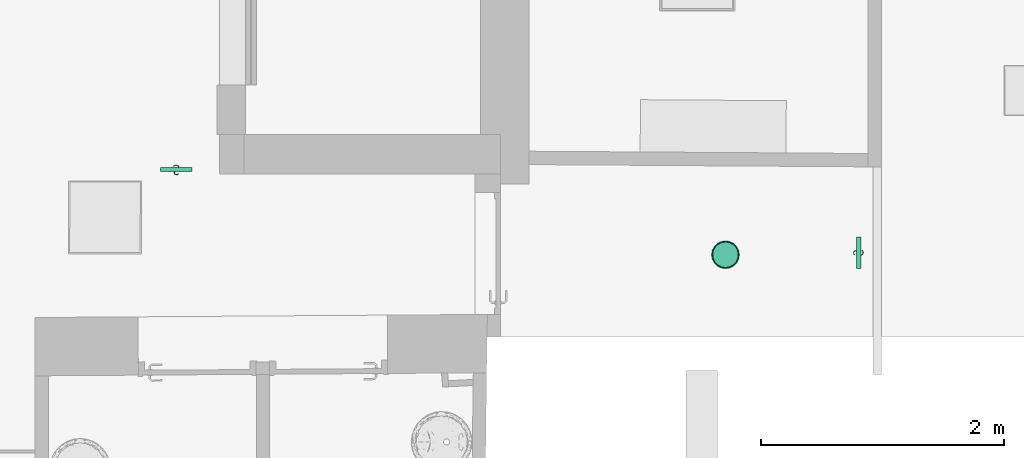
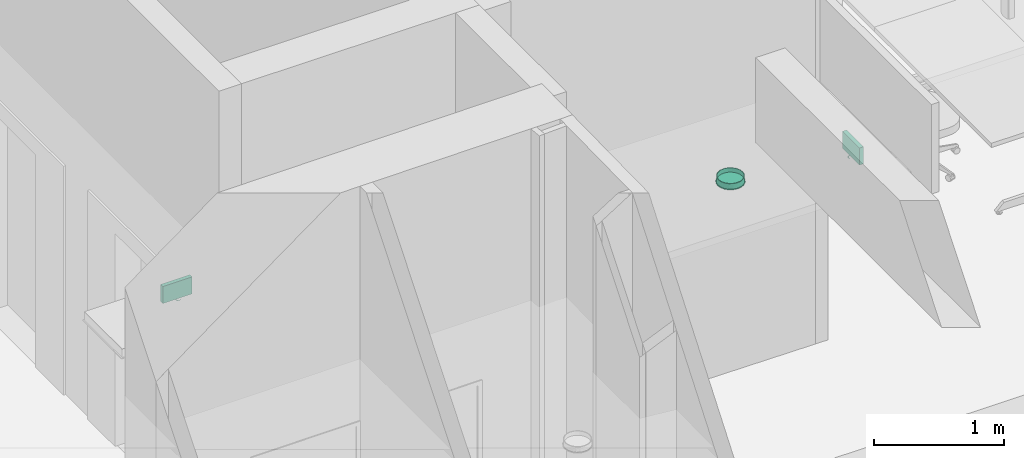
# One storey, part 74 of 128: 3 flow terminals.
"""IFC2X3 building model written with IfcOpenShell, lengths in metres."""

from ifc_helpers import new_model, entity, si_unit, converted_unit, derived_unit, direction, frame, origin, place, context, subcontext, project, spatial, face_set, faceted_brep, surface_model, source, transform, mapped, material, type_object, type_shapes, element, save


model = new_model("IFC2X3")

# Units and contexts
model_context = context("Model", 3, precision=1e-05, world=origin(), true_north=direction((6.123031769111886e-17, 1.0)))
body_context = subcontext(model_context, "Body", "Model", "MODEL_VIEW")
ifc_project = project(units=[si_unit("LENGTHUNIT", "METRE"), si_unit("AREAUNIT", "SQUARE_METRE"), converted_unit("PLANEANGLEUNIT", "DEGREE", entity("IfcPlaneAngleMeasure", 0.017453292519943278), si_unit("PLANEANGLEUNIT", "RADIAN"), dimensions=[0, 0, 0, 0, 0, 0, 0]), derived_unit("THERMALTRANSMITTANCEUNIT", [(si_unit("MASSUNIT", "GRAM", prefix="KILO"), 1), (si_unit("THERMODYNAMICTEMPERATUREUNIT", "KELVIN"), -1), (si_unit("TIMEUNIT", "SECOND"), -3)])], contexts=[model_context])

# Site, building, storey
site_placement = place(None, origin())
site = spatial("IfcSite", under=ifc_project, at=site_placement, Name="Default", CompositionType="ELEMENT")
building_placement = place(site_placement, origin())
building = spatial("IfcBuilding", under=site, at=building_placement, CompositionType="ELEMENT")
storey_placement = place(building_placement, origin())
storey = spatial("IfcBuildingStorey", under=building, at=storey_placement, Name="00_RDC CAF", CompositionType="ELEMENT", Elevation=2.4982504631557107e-13)

# Flow terminals
ifc_material = material(Name="ARC - Eq Elec - Blanc")
light_fixture_type_1 = type_object("IfcLightFixtureType", Name="Eq_Elec_Luminaire_Circulaire_LED_Encastre:Eq_Elec_Luminaire_Circulaire_LED_Encastre_D220x50mm", PredefinedType="NOTDEFINED", material=ifc_material)
shared_shape_1 = source(origin(), body_context, "Body", "Brep", [
    faceted_brep([(0.0, 0.10499999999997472, -0.010000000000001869), (0.02717599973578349, 0.10142221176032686, -0.010000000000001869), (0.05250000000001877, 0.09093266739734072, -0.010000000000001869), (0.07424621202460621, 0.07424621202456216, -0.010000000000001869), (0.09093266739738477, 0.05249999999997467, -0.010000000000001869), (0.10142221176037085, 0.027175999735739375, -0.010000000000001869), (0.10500000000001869, 0.0, -0.010000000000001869), (0.10142221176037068, -0.02717599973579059, -0.010000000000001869), (0.09093266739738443, -0.05250000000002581, -0.010000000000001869), (0.07424621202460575, -0.07424621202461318, -0.010000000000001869), (0.0525000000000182, -0.09093266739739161, -0.010000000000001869), (0.02717599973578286, -0.10142221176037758, -0.010000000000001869), (0.0, -0.10500000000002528, -0.010000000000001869), (-0.027175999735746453, -0.10142221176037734, -0.010000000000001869), (-0.052499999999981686, -0.09093266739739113, -0.010000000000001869), (-0.07424621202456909, -0.0742462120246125, -0.010000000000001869), (-0.09093266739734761, -0.052500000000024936, -0.010000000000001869), (-0.10142221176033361, -0.027175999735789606, -0.010000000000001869), (-0.10499999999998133, 0.0, -0.010000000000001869), (-0.1014222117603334, 0.027175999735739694, -0.010000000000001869), (-0.09093266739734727, 0.05249999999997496, -0.010000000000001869), (-0.07424621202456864, 0.07424621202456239, -0.010000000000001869), (-0.052499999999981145, 0.09093266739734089, -0.010000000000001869), (-0.027175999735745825, 0.10142221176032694, -0.010000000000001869), (0.02717599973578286, -0.10142221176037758, 0.0), (0.0525000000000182, -0.09093266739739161, 0.0), (0.07424621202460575, -0.07424621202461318, 0.0), (0.09093266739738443, -0.05250000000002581, 0.0), (0.10142221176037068, -0.02717599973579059, 0.0), (0.10500000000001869, 0.0, 0.0), (0.10142221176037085, 0.027175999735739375, 0.0), (0.09093266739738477, 0.05249999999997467, 0.0), (0.07424621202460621, 0.07424621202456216, 0.0), (0.05250000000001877, 0.09093266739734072, 0.0), (0.02717599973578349, 0.10142221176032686, 0.0), (0.0, 0.10499999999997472, 0.0), (-0.027175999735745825, 0.10142221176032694, 0.0), (-0.052499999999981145, 0.09093266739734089, 0.0), (-0.07424621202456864, 0.07424621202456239, 0.0), (-0.09093266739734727, 0.05249999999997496, 0.0), (-0.1014222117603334, 0.027175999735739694, 0.0), (-0.10499999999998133, 0.0, 0.0), (-0.10142221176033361, -0.027175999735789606, 0.0), (-0.09093266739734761, -0.052500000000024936, 0.0), (-0.07424621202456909, -0.0742462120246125, 0.0), (-0.052499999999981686, -0.09093266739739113, 0.0), (-0.027175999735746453, -0.10142221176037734, 0.0), (0.0, -0.10500000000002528, 0.0)], [[[0, 1, 2, 3, 4, 5, 6, 7, 8, 9, 10, 11, 12, 13, 14, 15, 16, 17, 18, 19, 20, 21, 22, 23]], [[24, 25, 26, 27, 28, 29, 30, 31, 32, 33, 34, 35, 36, 37, 38, 39, 40, 41, 42, 43, 44, 45, 46, 47]], [[17, 42, 41, 18]], [[16, 43, 42, 17]], [[45, 44, 15, 14]], [[16, 15, 44, 43]], [[46, 45, 14, 13]], [[47, 46, 13, 12]], [[11, 24, 47, 12]], [[10, 25, 24, 11]], [[27, 26, 9, 8]], [[10, 9, 26, 25]], [[28, 27, 8, 7]], [[29, 28, 7, 6]], [[5, 30, 29, 6]], [[4, 31, 30, 5]], [[33, 32, 3, 2]], [[4, 3, 32, 31]], [[34, 33, 2, 1]], [[35, 34, 1, 0]], [[23, 36, 35, 0]], [[22, 37, 36, 23]], [[19, 18, 41, 40]], [[21, 38, 37, 22]], [[39, 20, 19, 40]], [[39, 38, 21, 20]]]),
    faceted_brep([(-0.10999999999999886, 0.0, 0.0), (-0.10999999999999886, 0.0, -0.05000000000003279), (-0.10461621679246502, -0.033991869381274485, -0.05000000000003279), (-0.10461621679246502, -0.033991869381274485, 0.0), (-0.08899186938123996, -0.06465637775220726, 0.0), (-0.08899186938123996, -0.06465637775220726, -0.05000000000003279), (-0.06465637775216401, -0.08899186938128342, -0.05000000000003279), (-0.06465637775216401, -0.08899186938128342, 0.0), (-0.03399186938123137, -0.10461621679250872, -0.05000000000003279), (-0.03399186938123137, -0.10461621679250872, 0.0), (0.0, -0.11000000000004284, -0.05000000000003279), (0.0, -0.11000000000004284, 0.0), (0.033991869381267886, -0.10461621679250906, -0.05000000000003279), (0.06465637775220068, -0.08899186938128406, -0.05000000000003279), (0.06465637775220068, -0.08899186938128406, 0.0), (0.033991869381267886, -0.10461621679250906, 0.0), (0.10461621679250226, -0.03399186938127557, 0.0), (0.08899186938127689, -0.06465637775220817, 0.0), (0.08899186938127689, -0.06465637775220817, -0.05000000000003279), (0.10461621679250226, -0.03399186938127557, -0.05000000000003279), (0.11000000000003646, 0.0, 0.0), (0.11000000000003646, 0.0, -0.05000000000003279), (-0.1093714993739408, -0.03553695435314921, 0.0), (-0.1093714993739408, -0.03553695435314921, 0.004999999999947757), (-0.11135404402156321, -0.023019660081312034, 0.004999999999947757), (-0.11499999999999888, 0.0, 0.004999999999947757), (-0.11499999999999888, 0.0, 0.0), (-0.11218574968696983, -0.017768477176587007, 0.0), (-0.09303695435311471, -0.0675953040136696, 0.0), (-0.08031612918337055, -0.08031612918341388, 0.0), (-0.06759530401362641, -0.09303695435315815, 0.0), (-0.06759530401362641, -0.09303695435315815, 0.004999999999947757), (-0.08031612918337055, -0.08031612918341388, 0.004999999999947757), (-0.09303695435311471, -0.0675953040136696, 0.004999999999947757), (0.10120422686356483, -0.05156612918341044, 0.004999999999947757), (0.09303695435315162, -0.06759530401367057, 0.004999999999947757), (0.09303695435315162, -0.06759530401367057, 0.0), (0.10120422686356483, -0.05156612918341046, 0.0), (0.10937149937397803, -0.035536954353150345, 0.0), (0.10937149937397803, -0.035536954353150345, 0.004999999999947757), (0.08031612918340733, -0.0803161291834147, 0.004999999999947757), (0.06759530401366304, -0.09303695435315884, 0.004999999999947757), (0.06759530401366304, -0.09303695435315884, 0.0), (0.08031612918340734, -0.08031612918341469, 0.0), (-0.10120422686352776, -0.0515661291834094, 0.0), (-0.10120422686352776, -0.0515661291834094, 0.004999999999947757), (-0.051566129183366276, -0.10120422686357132, 0.0), (-0.03553695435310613, -0.1093714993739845, 0.0), (-0.03553695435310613, -0.1093714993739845, 0.004999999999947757), (-0.051566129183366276, -0.10120422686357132, 0.004999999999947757), (0.11500000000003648, 0.0, 0.004999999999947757), (0.11135404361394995, -0.02301966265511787, 0.004999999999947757), (0.11218574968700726, -0.01776847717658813, 0.0), (0.11500000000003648, 0.0, 0.0), (0.017768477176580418, -0.11218574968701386, 0.0), (0.0355369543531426, -0.10937149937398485, 0.0), (0.0355369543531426, -0.10937149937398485, 0.004999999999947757), (0.017768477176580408, -0.11218574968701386, 0.004999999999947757), (0.0, -0.11500000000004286, 0.004999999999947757), (0.0, -0.11500000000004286, 0.0), (-0.017768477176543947, -0.11218574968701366, 0.004999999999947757), (-0.017768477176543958, -0.11218574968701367, 0.0), (0.051566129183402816, -0.10120422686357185, 0.0), (0.051566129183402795, -0.10120422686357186, 0.004999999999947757), (-0.09986093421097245, -0.0324467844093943, -0.05000000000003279), (-0.1049999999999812, 0.0, -0.05000000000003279), (-0.1049999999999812, 0.0, 0.004999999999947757), (-0.09986093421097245, -0.0324467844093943, 0.004999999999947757), (-0.061717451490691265, -0.08494678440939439, -0.05000000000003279), (-0.08494678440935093, -0.06171745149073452, -0.05000000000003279), (-0.08494678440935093, -0.06171745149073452, 0.004999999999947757), (-0.061717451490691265, -0.08494678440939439, 0.004999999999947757), (-0.03244678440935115, -0.09986093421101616, 0.004999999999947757), (-0.03244678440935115, -0.09986093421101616, -0.05000000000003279), (0.0, -0.10500000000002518, 0.004999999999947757), (0.0, -0.10500000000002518, -0.05000000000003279), (0.06171745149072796, -0.08494678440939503, -0.05000000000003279), (0.03244678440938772, -0.0998609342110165, -0.05000000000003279), (0.03244678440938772, -0.0998609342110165, 0.004999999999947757), (0.06171745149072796, -0.08494678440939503, 0.004999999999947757), (0.09986093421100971, -0.03244678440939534, -0.05000000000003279), (0.0849467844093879, -0.06171745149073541, -0.05000000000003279), (0.0849467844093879, -0.06171745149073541, 0.004999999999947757), (0.09986093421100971, -0.03244678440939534, 0.004999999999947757), (0.1050000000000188, 0.0, -0.05000000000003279), (0.1050000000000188, 0.0, 0.004999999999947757), (0.10461621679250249, 0.03399186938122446, -0.05000000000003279), (0.10461621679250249, 0.03399186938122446, 0.0), (0.08899186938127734, 0.06465637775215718, 0.0), (0.08899186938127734, 0.06465637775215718, -0.05000000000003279), (0.0646563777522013, 0.08899186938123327, -0.05000000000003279), (0.0646563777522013, 0.08899186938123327, 0.0), (0.03399186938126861, 0.10461621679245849, -0.05000000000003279), (0.03399186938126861, 0.10461621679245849, 0.0), (0.0, 0.10999999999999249, -0.05000000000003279), (0.0, 0.10999999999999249, 0.0), (-0.033991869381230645, 0.1046162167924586, -0.05000000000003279), (-0.0646563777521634, 0.0889918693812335, -0.05000000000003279), (-0.0646563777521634, 0.0889918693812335, 0.0), (-0.033991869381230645, 0.1046162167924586, 0.0), (-0.10461621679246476, 0.03399186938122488, 0.0), (-0.0889918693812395, 0.06465637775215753, 0.0), (-0.0889918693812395, 0.06465637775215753, -0.05000000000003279), (-0.10461621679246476, 0.03399186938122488, -0.05000000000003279), (0.09986093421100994, 0.03244678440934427, -0.05000000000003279), (0.08494678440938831, 0.061717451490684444, -0.05000000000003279), (0.06171745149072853, 0.08494678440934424, -0.05000000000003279), (0.03244678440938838, 0.0998609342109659, -0.05000000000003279), (0.0, 0.1049999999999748, -0.05000000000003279), (-0.032446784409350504, 0.09986093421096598, -0.05000000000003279), (-0.061717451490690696, 0.0849467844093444, -0.05000000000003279), (-0.0849467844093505, 0.06171745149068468, -0.05000000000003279), (-0.0998609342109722, 0.03244678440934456, -0.05000000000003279), (0.10937149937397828, 0.035536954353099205, 0.0), (0.10937149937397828, 0.035536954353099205, 0.004999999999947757), (0.11135404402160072, 0.023019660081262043, 0.004999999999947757), (0.11218574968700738, 0.017768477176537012, 0.0), (0.0930369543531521, 0.06759530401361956, 0.0), (0.0803161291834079, 0.0803161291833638, 0.0), (0.06759530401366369, 0.093036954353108, 0.0), (0.06759530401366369, 0.093036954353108, 0.004999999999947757), (0.0803161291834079, 0.0803161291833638, 0.004999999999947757), (0.0930369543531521, 0.06759530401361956, 0.004999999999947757), (-0.1012042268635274, 0.05156612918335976, 0.004999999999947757), (-0.09303695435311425, 0.06759530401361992, 0.004999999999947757), (-0.09303695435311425, 0.06759530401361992, 0.0), (-0.1012042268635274, 0.05156612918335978, 0.0), (-0.10937149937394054, 0.03553695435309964, 0.0), (-0.10937149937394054, 0.03553695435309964, 0.004999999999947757), (-0.08031612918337, 0.0803161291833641, 0.004999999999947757), (-0.06759530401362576, 0.09303695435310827, 0.004999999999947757), (-0.06759530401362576, 0.09303695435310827, 0.0), (-0.08031612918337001, 0.08031612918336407, 0.0), (0.1012042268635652, 0.05156612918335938, 0.0), (0.1012042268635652, 0.05156612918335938, 0.004999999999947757), (0.051566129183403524, 0.10120422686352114, 0.0), (0.03553695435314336, 0.10937149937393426, 0.0), (0.03553695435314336, 0.10937149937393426, 0.004999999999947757), (0.051566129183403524, 0.10120422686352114, 0.004999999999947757), (-0.11135404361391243, 0.023019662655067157, 0.004999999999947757), (-0.11218574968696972, 0.017768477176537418, 0.0), (-0.0177684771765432, 0.11218574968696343, 0.0), (-0.035536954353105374, 0.1093714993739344, 0.0), (-0.035536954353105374, 0.1093714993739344, 0.004999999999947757), (-0.017768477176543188, 0.11218574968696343, 0.004999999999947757), (0.0, 0.1149999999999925, 0.004999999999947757), (0.0, 0.1149999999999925, 0.0), (0.017768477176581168, 0.11218574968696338, 0.004999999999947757), (0.017768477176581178, 0.11218574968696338, 0.0), (-0.05156612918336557, 0.10120422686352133, 0.0), (-0.05156612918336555, 0.10120422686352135, 0.004999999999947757), (0.09986093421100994, 0.03244678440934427, 0.004999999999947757), (0.08494678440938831, 0.061717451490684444, 0.004999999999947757), (0.06171745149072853, 0.08494678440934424, 0.004999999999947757), (0.03244678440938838, 0.0998609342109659, 0.004999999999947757), (0.0, 0.1049999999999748, 0.004999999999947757), (-0.032446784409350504, 0.09986093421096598, 0.004999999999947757), (-0.061717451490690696, 0.0849467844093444, 0.004999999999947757), (-0.0849467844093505, 0.06171745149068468, 0.004999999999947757), (-0.0998609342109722, 0.03244678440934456, 0.004999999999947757)], [[[0, 1, 2, 3]], [[4, 5, 6, 7]], [[2, 5, 4, 3]], [[6, 8, 9, 7]], [[9, 8, 10, 11]], [[12, 13, 14, 15]], [[16, 17, 18, 19]], [[18, 17, 14, 13]], [[20, 16, 19, 21]], [[15, 11, 10, 12]], [[22, 23, 24, 25, 26, 27]], [[28, 29, 30, 31, 32, 33]], [[34, 35, 36, 37, 38, 39]], [[40, 41, 42, 43, 36, 35]], [[22, 44, 28, 33, 45, 23]], [[30, 46, 47, 48, 49, 31]], [[50, 51, 39, 38, 52, 53]], [[54, 55, 56, 57, 58, 59]], [[60, 48, 47, 61, 59, 58]], [[55, 62, 42, 41, 63, 56]], [[64, 65, 66, 67]], [[68, 69, 70, 71]], [[67, 70, 69, 64]], [[71, 72, 73, 68]], [[74, 75, 73, 72]], [[76, 77, 78, 79]], [[80, 81, 82, 83]], [[82, 81, 76, 79]], [[84, 80, 83, 85]], [[78, 77, 75, 74]], [[20, 21, 86, 87]], [[88, 89, 90, 91]], [[86, 89, 88, 87]], [[90, 92, 93, 91]], [[93, 92, 94, 95]], [[96, 97, 98, 99]], [[100, 101, 102, 103]], [[102, 101, 98, 97]], [[0, 100, 103, 1]], [[99, 95, 94, 96]], [[64, 69, 5]], [[5, 2, 64]], [[64, 2, 65]], [[6, 5, 69]], [[69, 68, 6]], [[68, 73, 6]], [[8, 6, 73]], [[73, 75, 8]], [[10, 8, 75]], [[10, 75, 77]], [[77, 12, 10]], [[77, 76, 12]], [[13, 12, 76]], [[81, 13, 76]], [[13, 81, 18]], [[80, 18, 81]], [[18, 80, 19]], [[84, 19, 80]], [[21, 19, 84]], [[104, 21, 84]], [[86, 21, 104]], [[104, 105, 86]], [[89, 86, 105]], [[106, 89, 105]], [[89, 106, 90]], [[92, 90, 106]], [[106, 107, 92]], [[92, 107, 94]], [[107, 108, 94]], [[94, 108, 96]], [[108, 109, 96]], [[97, 96, 109]], [[109, 110, 97]], [[102, 97, 110]], [[110, 111, 102]], [[102, 111, 103]], [[112, 103, 111]], [[103, 112, 1]], [[112, 65, 1]], [[1, 65, 2]], [[113, 114, 115, 50, 53, 116]], [[117, 118, 119, 120, 121, 122]], [[123, 124, 125, 126, 127, 128]], [[129, 130, 131, 132, 125, 124]], [[113, 133, 117, 122, 134, 114]], [[119, 135, 136, 137, 138, 120]], [[25, 139, 128, 127, 140, 26]], [[141, 142, 143, 144, 145, 146]], [[147, 137, 136, 148, 146, 145]], [[142, 149, 131, 130, 150, 143]], [[33, 70, 67]], [[70, 33, 32]], [[67, 45, 33]], [[70, 32, 31]], [[31, 71, 70]], [[31, 72, 71]], [[72, 31, 49]], [[72, 49, 48]], [[48, 74, 72]], [[74, 48, 60]], [[74, 60, 58]], [[78, 74, 58]], [[78, 58, 57]], [[78, 57, 56]], [[56, 79, 78]], [[79, 56, 63]], [[79, 63, 41]], [[79, 41, 82]], [[82, 41, 40]], [[82, 40, 35]], [[82, 35, 83]], [[83, 35, 34]], [[83, 34, 39]], [[83, 39, 85]], [[85, 39, 51]], [[85, 51, 50]], [[85, 50, 151]], [[151, 50, 115]], [[151, 115, 114]], [[114, 152, 151]], [[152, 114, 134]], [[152, 134, 122]], [[152, 122, 153]], [[153, 122, 121]], [[153, 121, 120]], [[153, 120, 138]], [[153, 138, 137]], [[137, 154, 153]], [[154, 137, 147]], [[154, 147, 145]], [[145, 155, 154]], [[155, 145, 144]], [[155, 144, 143]], [[143, 156, 155]], [[156, 143, 150]], [[156, 150, 130]], [[130, 157, 156]], [[157, 130, 129]], [[157, 129, 124]], [[124, 158, 157]], [[158, 124, 123]], [[158, 123, 128]], [[158, 128, 159]], [[159, 128, 139]], [[159, 139, 25]], [[25, 66, 159]], [[66, 25, 24]], [[66, 24, 23]], [[23, 67, 66]], [[67, 23, 45]], [[104, 84, 85, 151]], [[106, 105, 152, 153]], [[151, 152, 105, 104]], [[153, 154, 107, 106]], [[155, 108, 107, 154]], [[110, 109, 156, 157]], [[112, 111, 158, 159]], [[158, 111, 110, 157]], [[65, 112, 159, 66]], [[156, 109, 108, 155]], [[3, 4, 28]], [[3, 28, 44]], [[3, 44, 22]], [[3, 22, 0]], [[4, 29, 28]], [[4, 30, 29]], [[4, 7, 30]], [[7, 9, 30]], [[9, 46, 30]], [[9, 47, 46]], [[9, 11, 47]], [[11, 61, 47]], [[11, 59, 61]], [[59, 11, 15]], [[15, 54, 59]], [[15, 55, 54]], [[15, 14, 55]], [[14, 62, 55]], [[14, 42, 62]], [[17, 42, 14]], [[17, 43, 42]], [[17, 36, 43]], [[16, 36, 17]], [[16, 37, 36]], [[16, 38, 37]], [[20, 38, 16]], [[20, 52, 38]], [[20, 53, 52]], [[87, 53, 20]], [[87, 116, 53]], [[87, 113, 116]], [[87, 88, 113]], [[88, 133, 113]], [[88, 117, 133]], [[91, 117, 88]], [[91, 118, 117]], [[91, 119, 118]], [[91, 135, 119]], [[91, 136, 135]], [[91, 93, 136]], [[93, 148, 136]], [[93, 146, 148]], [[93, 95, 146]], [[95, 141, 146]], [[95, 142, 141]], [[95, 99, 142]], [[99, 149, 142]], [[99, 131, 149]], [[99, 98, 131]], [[98, 132, 131]], [[98, 125, 132]], [[98, 101, 125]], [[101, 126, 125]], [[101, 127, 126]], [[100, 127, 101]], [[100, 0, 26]], [[100, 26, 140]], [[100, 140, 127]], [[0, 22, 27]], [[0, 27, 26]]]),
])
type_shapes(light_fixture_type_1, [shared_shape_1])
flow_terminal_placement = place(storey_placement, frame((32.50823323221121, 130.89248300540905, 2.379999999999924), z_axis=(0.0, 0.0, -1.0), x_axis=(1.0, 0.0, 0.0)))
element("IfcFlowTerminal", 1, at=flow_terminal_placement, inside=storey, type_object=light_fixture_type_1, material=ifc_material, Name="Eq_Elec_Luminaire_Circulaire_LED_Encastre:Eq_Elec_Luminaire_Circulaire_LED_Encastre_D220x50mm", ObjectType="Eq_Elec_Luminaire_Circulaire_LED_Encastre:Eq_Elec_Luminaire_Circulaire_LED_Encastre_D220x50mm", context=body_context, shape_type="MappedRepresentation", body=[
    mapped(shared_shape_1, transform((0.0, 0.0, 0.0), scale=1.0)),
])
light_fixture_type_2 = type_object("IfcLightFixtureType", Name="Eq_Elec_Eclairage_secours_BAES:Eq_Elec_Eclairage secours BAES_260x160x35mm", PredefinedType="NOTDEFINED", material=ifc_material)
shared_shape_2 = source(origin(), body_context, "Body", "SurfaceModel", [
    surface_model("IfcFaceBasedSurfaceModel", [(0.003932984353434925, 0.017499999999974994, 0.09396213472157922), (0.0023406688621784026, 0.017499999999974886, 0.0857472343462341), (-0.0018693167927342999, 0.017499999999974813, 0.07955891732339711), (-0.007816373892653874, 0.017499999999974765, 0.07496291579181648), (-0.014595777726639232, 0.017499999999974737, 0.07133195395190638), (-0.02137518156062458, 0.01749999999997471, 0.06795431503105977), (-0.027322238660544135, 0.017499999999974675, 0.06416653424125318), (-0.03153222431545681, 0.01749999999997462, 0.0593292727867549), (-0.033124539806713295, 0.017499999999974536, 0.052754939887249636), (-0.03224394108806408, 0.017499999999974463, 0.04756785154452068), (-0.02961420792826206, 0.017499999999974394, 0.04328548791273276), (-0.025199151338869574, 0.01749999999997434, 0.040402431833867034), (-0.018962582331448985, 0.017499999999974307, 0.039340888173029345), (-0.012496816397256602, 0.0174999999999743, 0.04029386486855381), (-0.007599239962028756, 0.017499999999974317, 0.04242901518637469), (-0.00418541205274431, 0.017499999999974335, 0.04456416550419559), (-0.0019537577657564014, 0.017499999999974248, 0.03870154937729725), (-0.004318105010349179, 0.01749999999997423, 0.03700066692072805), (-0.008383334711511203, 0.017499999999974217, 0.035094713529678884), (-0.013220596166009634, 0.017499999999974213, 0.033707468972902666), (-0.01828705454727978, 0.01749999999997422, 0.03316463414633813), (-0.02743080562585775, 0.017499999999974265, 0.03451568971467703), (-0.03458416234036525, 0.01749999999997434, 0.03842410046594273), (-0.039204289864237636, 0.017499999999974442, 0.044648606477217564), (-0.0408448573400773, 0.01749999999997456, 0.05292382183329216), (-0.039252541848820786, 0.01749999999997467, 0.06123522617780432), (-0.03504255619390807, 0.017499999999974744, 0.06743560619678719), (-0.029107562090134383, 0.01749999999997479, 0.07205573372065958), (-0.022316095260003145, 0.01749999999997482, 0.07572288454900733), (-0.01552462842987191, 0.017499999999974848, 0.07908846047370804), (-0.009589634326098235, 0.01749999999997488, 0.08284005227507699), (-0.0053796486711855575, 0.017499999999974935, 0.08765318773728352), (-0.0037873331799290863, 0.01749999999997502, 0.09420339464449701), (-0.00507807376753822, 0.01749999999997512, 0.10105517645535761), (-0.008684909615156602, 0.0174999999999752, 0.10612163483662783), (-0.014197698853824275, 0.017499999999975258, 0.10927007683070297), (-0.02123042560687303, 0.017499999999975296, 0.11036780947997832), (-0.029481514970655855, 0.017499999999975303, 0.10914944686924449), (-0.03556126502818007, 0.017499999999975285, 0.10650765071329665), (-0.03969887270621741, 0.01749999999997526, 0.10386585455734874), (-0.043932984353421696, 0.017499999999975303, 0.10585624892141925), (-0.043619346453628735, 0.01749999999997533, 0.10796727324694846), (-0.04261811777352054, 0.01749999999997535, 0.10961990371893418), (-0.04009695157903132, 0.01749999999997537, 0.11156204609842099), (-0.03558539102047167, 0.017499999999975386, 0.11382988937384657), (-0.029481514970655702, 0.017499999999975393, 0.11574790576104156), (-0.022171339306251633, 0.017499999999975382, 0.11654406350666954), (-0.01170065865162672, 0.01749999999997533, 0.11499999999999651), (-0.003413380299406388, 0.017499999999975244, 0.11053669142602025), (0.002002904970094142, 0.01749999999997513, 0.10343158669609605), (0.023932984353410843, -0.014873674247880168, 0.15999999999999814), (0.022340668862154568, -0.006658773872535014, 0.15999999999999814), (0.01813068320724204, -0.000470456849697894, 0.15999999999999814), (0.012183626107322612, 0.004125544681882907, 0.15999999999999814), (0.0054042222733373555, 0.007756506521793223, 0.15999999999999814), (-0.0013751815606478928, 0.011134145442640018, 0.15999999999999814), (-0.007322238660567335, 0.01492192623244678, 0.15999999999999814), (-0.01153222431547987, 0.019759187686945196, 0.15999999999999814), (-0.013124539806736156, 0.0263335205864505, 0.15999999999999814), (-0.012243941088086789, 0.03152060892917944, 0.15999999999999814), (-0.009614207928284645, 0.035802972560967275, 0.15999999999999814), (-0.005199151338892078, 0.03868602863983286, 0.15999999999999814), (0.0010374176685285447, 0.03974757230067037, 0.15999999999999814), (0.007503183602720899, 0.03879459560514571, 0.15999999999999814), (0.012400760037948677, 0.036659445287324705, 0.15999999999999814), (0.015814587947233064, 0.03452429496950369, 0.15999999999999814), (0.018046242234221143, 0.04038691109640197, 0.15999999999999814), (0.015681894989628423, 0.04208779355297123, 0.15999999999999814), (0.011616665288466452, 0.04399374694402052, 0.15999999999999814), (0.006779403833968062, 0.04538099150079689, 0.15999999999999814), (0.0017129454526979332, 0.04592382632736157, 0.15999999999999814), (-0.00743080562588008, 0.04457277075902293, 0.15999999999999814), (-0.014584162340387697, 0.04066436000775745, 0.15999999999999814), (-0.019204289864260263, 0.03443985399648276, 0.15999999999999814), (-0.020844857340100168, 0.026164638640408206, 0.15999999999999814), (-0.019252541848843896, 0.017853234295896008, 0.15999999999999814), (-0.015042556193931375, 0.011652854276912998, 0.15999999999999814), (-0.009107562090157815, 0.007032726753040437, 0.15999999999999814), (-0.002316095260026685, 0.0033655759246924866, 0.15999999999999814), (0.00447537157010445, 0.0, 0.15999999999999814), (0.010410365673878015, -0.0037515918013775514, 0.15999999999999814), (0.014620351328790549, -0.0085647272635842, 0.15999999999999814), (0.016212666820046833, -0.015114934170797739, 0.15999999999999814), (0.014921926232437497, -0.021966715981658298, 0.15999999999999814), (0.011315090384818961, -0.02703317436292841, 0.15999999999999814), (0.005802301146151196, -0.030181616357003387, 0.15999999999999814), (-0.0012304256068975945, -0.03127934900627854, 0.15999999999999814), (-0.009481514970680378, -0.030060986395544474, 0.15999999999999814), (-0.015561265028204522, -0.027419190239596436, 0.15999999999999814), (-0.019698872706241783, -0.02477739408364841, 0.15999999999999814), (-0.023932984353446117, -0.02676778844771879, 0.15999999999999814), (-0.02361934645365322, -0.028878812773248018, 0.15999999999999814), (-0.022618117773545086, -0.030531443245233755, 0.15999999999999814), (-0.02009695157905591, -0.032473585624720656, 0.15999999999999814), (-0.015585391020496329, -0.034741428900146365, 0.15999999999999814), (-0.009481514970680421, -0.03665944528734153, 0.15999999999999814), (-0.0021713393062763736, -0.03745560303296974, 0.15999999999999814), (0.008299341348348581, -0.035911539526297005, 0.15999999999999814), (0.01658661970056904, -0.03144823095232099, 0.15999999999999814), (0.02200290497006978, -0.024343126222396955, 0.15999999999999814), (0.13000000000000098, 0.017499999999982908, 0.15999999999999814), (0.13000000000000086, -0.01750000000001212, 0.15999999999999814), (-0.1299999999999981, -0.017500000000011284, 0.15999999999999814), (-0.129999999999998, 0.017499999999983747, 0.15999999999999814), (0.13000000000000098, 0.017499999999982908, 0.0), (0.13000000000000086, -0.017500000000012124, 0.0), (-0.1299999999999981, -0.017500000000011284, 0.0), (-0.129999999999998, 0.017499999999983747, 0.0)], [face_set([[[0, 1, 2, 3, 4, 5, 6, 7, 8, 9, 10, 11, 12, 13, 14, 15, 16, 17, 18, 19, 20, 21, 22, 23, 24, 25, 26, 27, 28, 29, 30, 31, 32, 33, 34, 35, 36, 37, 38, 39, 40, 41, 42, 43, 44, 45, 46, 47, 48, 49]]]), face_set([[[50, 51, 52, 53, 54, 55, 56, 57, 58, 59, 60, 61, 62, 63, 64, 65, 66, 67, 68, 69, 70, 71, 72, 73, 74, 75, 76, 77, 78, 79, 80, 81, 82, 83, 84, 85, 86, 87, 88, 89, 90, 91, 92, 93, 94, 95, 96, 97, 98, 99]]]), face_set([[[100, 101, 102, 103]], [[104, 105, 106, 107]], [[103, 100, 104, 107]], [[102, 103, 107, 106]], [[101, 102, 106, 105]], [[100, 101, 105, 104]]])]),
])
type_shapes(light_fixture_type_2, [shared_shape_2])
for number, where, z_axis, x_axis, name in (
    (2, (33.60623323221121, 130.90848300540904, 2.379999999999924), (0.0, 0.0, -1.0), (0.0, -1.0, 0.0), "Eq_Elec_Eclairage_secours_BAES:Eq_Elec_Eclairage secours BAES_260x160x35mm"),
    (3, (27.99023323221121, 131.59448300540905, 2.599999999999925), (0.0, 0.0, -1.0), (1.0, 0.0, 0.0), "Eq_Elec_Eclairage_secours_BAES:Eq_Elec_Eclairage secours BAES_260x160x35mm"),
):
    element("IfcFlowTerminal", number, at=place(storey_placement, frame(where, z_axis=z_axis, x_axis=x_axis)), inside=storey, type_object=light_fixture_type_2, material=ifc_material, Name=name, ObjectType="Eq_Elec_Eclairage_secours_BAES:Eq_Elec_Eclairage secours BAES_260x160x35mm", context=body_context, shape_type="MappedRepresentation", body=[
        mapped(shared_shape_2, transform((0.0, 0.0, 0.0), scale=1.0)),
    ])

save(model, "model.ifc")
